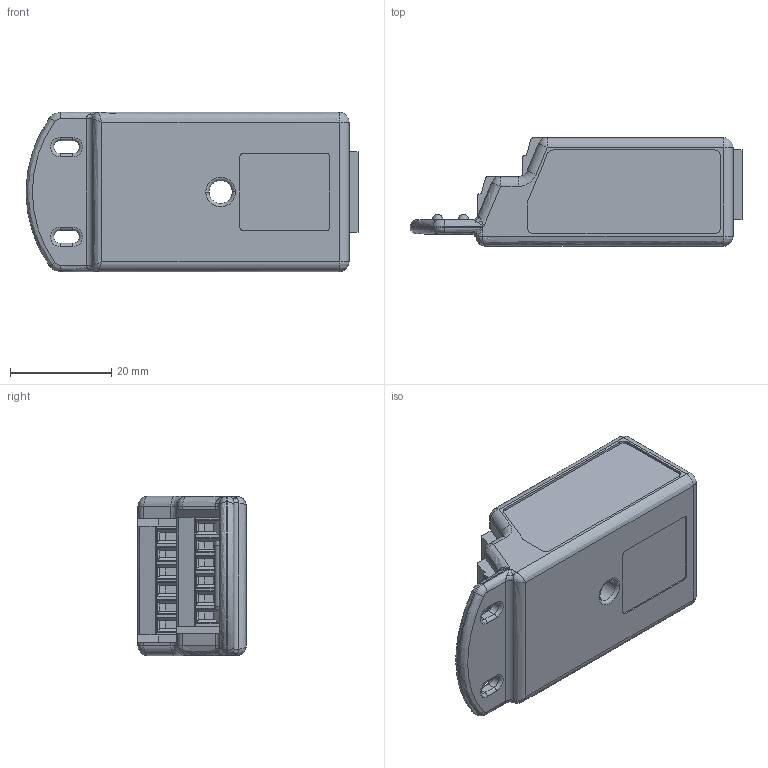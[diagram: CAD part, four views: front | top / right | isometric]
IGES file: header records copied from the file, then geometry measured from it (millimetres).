
Start section:  PTC IGES file: cu_ni-9949.igs
Global section: file name: cu_ni-9949.igs; native system: Creo Parametric by Parametric Technology Corporation; preprocessor: 2014000; author: dkendric; organization: Unknown; date: 20150520.164305; units: inch
Bounding box: 65.67 x 21.41 x 31.5 mm (x, y, z)
Surface area: 8894.6 mm2 (no closed solid volume)
Topology: 0 solids, 0 shells, 522 faces, 2754 edges, 2750 vertices
Faces by surface type: bspline 298, revolution 224
